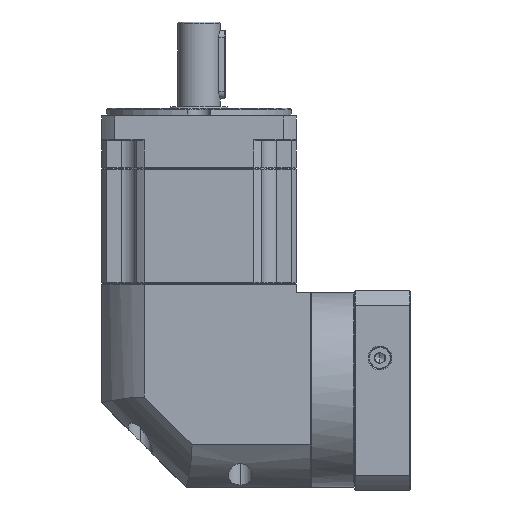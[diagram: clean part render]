
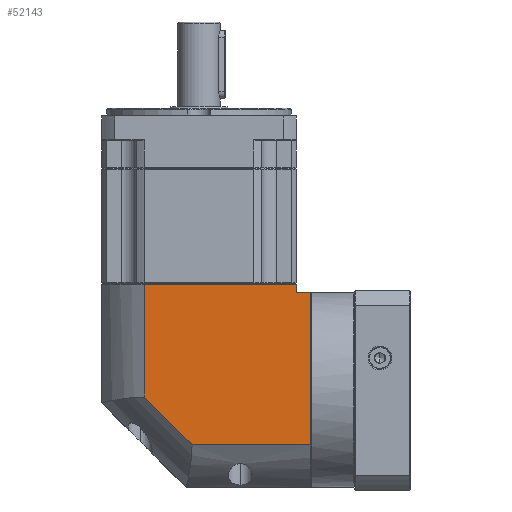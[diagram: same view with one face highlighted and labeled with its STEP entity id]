
A CAD part, left-side view. The second image highlights one B-rep face of the part: STEP entity #52143.
In plain terms, the highlighted planar face has unit normal (-1, 0, 0).
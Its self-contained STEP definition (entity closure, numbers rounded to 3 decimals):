
#6825 = EDGE_CURVE ( 'NONE', #133730, #62807, #131399, .T. ) ;
#13396 = LINE ( 'NONE', #162484, #44936 ) ;
#15543 = VECTOR ( 'NONE', #53854, 1000. ) ;
#16150 = CARTESIAN_POINT ( 'NONE',  ( -253.559, 37.378, 51.673 ) ) ;
#17393 = VECTOR ( 'NONE', #164662, 1000. ) ;
#23812 = DIRECTION ( 'NONE',  ( 0., 0.707, 0.707 ) ) ;
#25277 = CARTESIAN_POINT ( 'NONE',  ( -253.559, 37.378, 45.173 ) ) ;
#29640 = DIRECTION ( 'NONE',  ( 0., 1., 0. ) ) ;
#29779 = EDGE_CURVE ( 'NONE', #131695, #85211, #13396, .T. ) ;
#30330 = CARTESIAN_POINT ( 'NONE',  ( -253.559, -77.622, -74.827 ) ) ;
#30854 = EDGE_CURVE ( 'NONE', #85211, #40687, #44533, .T. ) ;
#33833 = CARTESIAN_POINT ( 'NONE',  ( -253.559, -77.622, 40.173 ) ) ;
#40687 = VERTEX_POINT ( 'NONE', #47231 ) ;
#41334 = FACE_OUTER_BOUND ( 'NONE', #130436, .T. ) ;
#44533 = LINE ( 'NONE', #25277, #80188 ) ;
#44936 = VECTOR ( 'NONE', #163620, 1000. ) ;
#47231 = CARTESIAN_POINT ( 'NONE',  ( -253.559, -77.622, 45.173 ) ) ;
#52143 = ADVANCED_FACE ( 'NONE', ( #41334 ), #71886, .F. ) ;
#52482 = VERTEX_POINT ( 'NONE', #102290 ) ;
#53154 = LINE ( 'NONE', #30330, #17393 ) ;
#53854 = DIRECTION ( 'NONE',  ( 0., 0., -1. ) ) ;
#56214 = CARTESIAN_POINT ( 'NONE',  ( -253.559, 37.378, -49.727 ) ) ;
#60176 = VECTOR ( 'NONE', #81790, 1000. ) ;
#61133 = LINE ( 'NONE', #104181, #163889 ) ;
#62664 = EDGE_CURVE ( 'NONE', #62807, #40687, #53154, .T. ) ;
#62807 = VERTEX_POINT ( 'NONE', #33833 ) ;
#64199 = EDGE_CURVE ( 'NONE', #133730, #52482, #122623, .T. ) ;
#65346 = EDGE_CURVE ( 'NONE', #155172, #131695, #61133, .T. ) ;
#68237 = ORIENTED_EDGE ( 'NONE', *, *, #29779, .F. ) ;
#71886 = PLANE ( 'NONE',  #173286 ) ;
#80188 = VECTOR ( 'NONE', #105626, 1000. ) ;
#81720 = ORIENTED_EDGE ( 'NONE', *, *, #64199, .F. ) ;
#81790 = DIRECTION ( 'NONE',  ( 0., 1., 0. ) ) ;
#81881 = CARTESIAN_POINT ( 'NONE',  ( -253.559, 12.277, 45.173 ) ) ;
#85211 = VERTEX_POINT ( 'NONE', #81881 ) ;
#93656 = CARTESIAN_POINT ( 'NONE',  ( -253.559, -86.022, 51.673 ) ) ;
#100770 = ORIENTED_EDGE ( 'NONE', *, *, #30854, .F. ) ;
#102105 = CARTESIAN_POINT ( 'NONE',  ( -253.559, 12.277, -21.389 ) ) ;
#102290 = CARTESIAN_POINT ( 'NONE',  ( -253.559, -86.022, -49.727 ) ) ;
#104181 = CARTESIAN_POINT ( 'NONE',  ( -253.559, -16.061, -49.727 ) ) ;
#105626 = DIRECTION ( 'NONE',  ( 0., -1., 0. ) ) ;
#109920 = DIRECTION ( 'NONE',  ( 1., 0., 0. ) ) ;
#110480 = EDGE_CURVE ( 'NONE', #52482, #155172, #128505, .T. ) ;
#110767 = ORIENTED_EDGE ( 'NONE', *, *, #110480, .F. ) ;
#121649 = CARTESIAN_POINT ( 'NONE',  ( -253.559, -77.622, 40.173 ) ) ;
#122188 = ORIENTED_EDGE ( 'NONE', *, *, #65346, .F. ) ;
#122623 = LINE ( 'NONE', #93656, #15543 ) ;
#123580 = DIRECTION ( 'NONE',  ( 0., 1., 0. ) ) ;
#126107 = ORIENTED_EDGE ( 'NONE', *, *, #6825, .T. ) ;
#128505 = LINE ( 'NONE', #56214, #164230 ) ;
#130436 = EDGE_LOOP ( 'NONE', ( #68237, #122188, #110767, #81720, #126107, #169486, #100770 ) ) ;
#131399 = LINE ( 'NONE', #121649, #60176 ) ;
#131695 = VERTEX_POINT ( 'NONE', #102105 ) ;
#133730 = VERTEX_POINT ( 'NONE', #138585 ) ;
#138585 = CARTESIAN_POINT ( 'NONE',  ( -253.559, -86.022, 40.173 ) ) ;
#155172 = VERTEX_POINT ( 'NONE', #173509 ) ;
#162484 = CARTESIAN_POINT ( 'NONE',  ( -253.559, 12.277, 51.673 ) ) ;
#163620 = DIRECTION ( 'NONE',  ( 0., 0., 1. ) ) ;
#163889 = VECTOR ( 'NONE', #23812, 1000. ) ;
#164230 = VECTOR ( 'NONE', #123580, 1000. ) ;
#164662 = DIRECTION ( 'NONE',  ( 0., 0., 1. ) ) ;
#169486 = ORIENTED_EDGE ( 'NONE', *, *, #62664, .T. ) ;
#173286 = AXIS2_PLACEMENT_3D ( 'NONE', #16150, #109920, #29640 ) ;
#173509 = CARTESIAN_POINT ( 'NONE',  ( -253.559, -16.061, -49.727 ) ) ;
